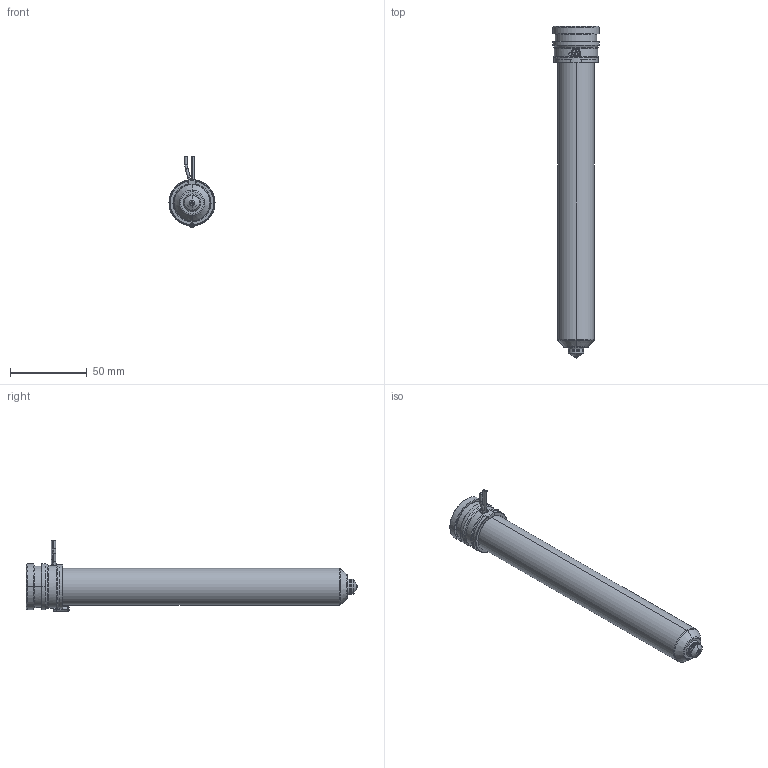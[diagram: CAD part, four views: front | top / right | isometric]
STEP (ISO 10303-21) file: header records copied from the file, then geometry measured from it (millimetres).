
FILE_DESCRIPTION((''),'2;1');
FILE_NAME('MPN-10-29-VSA10-196-A','2026-02-05T12:45:36',('UPTIO'),('Thermoplay S.p.A.'),'CREO PARAMETRIC BY PTC INC, 2023494','CREO PARAMETRIC BY PTC INC, 2023494','');
FILE_SCHEMA(('CONFIG_CONTROL_DESIGN','SHAPE_APPEARANCE_LAYERS_GROUPS'));
Length unit declared in the file: millimetre
Products named in the file (1): MPN-10-29-VSA10-196-A
Bounding box: 30 x 216 x 46 mm (x, y, z)
Volume: 66852.4 mm3; surface area: 67916 mm2
Topology: 2 solids, 3 shells, 556 faces, 1451 edges, 894 vertices
Faces by surface type: cylinder 184, plane 142, bspline 77, torus 70, cone 70, sphere 9, extrusion 4
Entity records: 30654 total; most frequent: CARTESIAN_POINT 14240, ORIENTED_EDGE 2890, DIRECTION 2691, EDGE_CURVE 1445, AXIS2_PLACEMENT_3D 1066, VERTEX_POINT 894, CIRCLE 590, EDGE_LOOP 585
